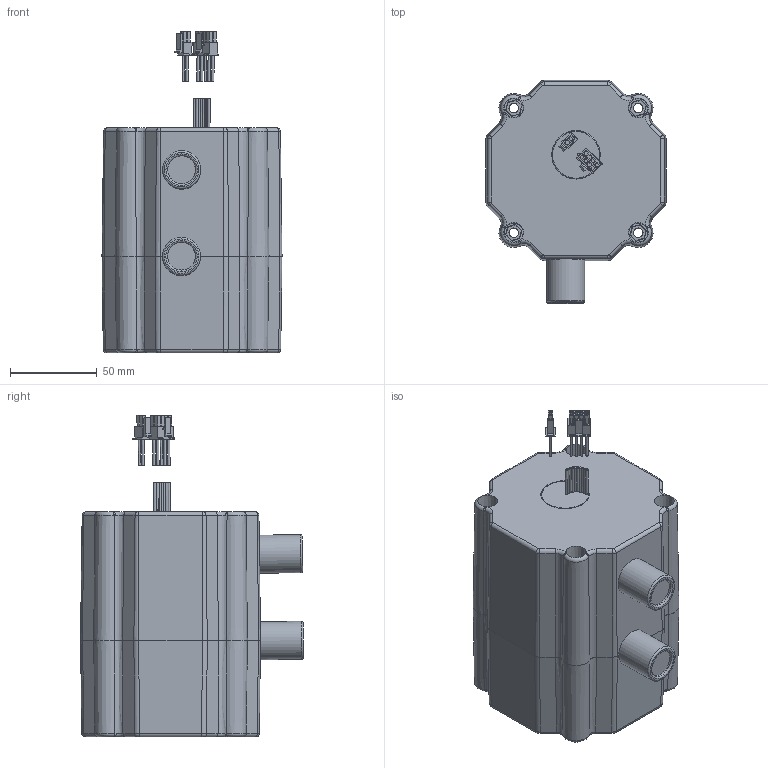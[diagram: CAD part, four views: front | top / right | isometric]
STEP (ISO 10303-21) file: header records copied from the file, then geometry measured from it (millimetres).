
FILE_DESCRIPTION(/* description */ (''),/* implementation_level */ '2;1');
FILE_NAME(/* name */ '',/* time_stamp */ '2015-02-18T09:51:12+01:00',/* author */ (''),/* organization */ (''),/* preprocessor_version */ 'ST-DEVELOPER v11',/* originating_system */ 'SIEMENS PLM Software NX 7.5',/* authorisation */ '');
FILE_SCHEMA (('AUTOMOTIVE_DESIGN { 1 0 10303 214 1 1 1 1 }'));
Length unit declared in the file: millimetre
Products named in the file (1): abduD1CByika
Bounding box: 104.04 x 128.85 x 185.83 mm (x, y, z)
Volume: 1533.5 mm3; surface area: 86537.8 mm2
Topology: 3 solids, 4 shells, 663 faces, 1686 edges, 1098 vertices
Faces by surface type: plane 379, cylinder 149, bspline 48, torus 45, cone 42
Full cylindrical faces by diameter (mm): 1.4 x20, 21.93 x1, 22 x1, 28 x2
Entity records: 22000 total; most frequent: CARTESIAN_POINT 5423, ORIENTED_EDGE 3232, DIRECTION 3154, EDGE_CURVE 1616, VERTEX_POINT 1076, AXIS2_PLACEMENT_3D 1068, LINE 1018, VECTOR 1018
